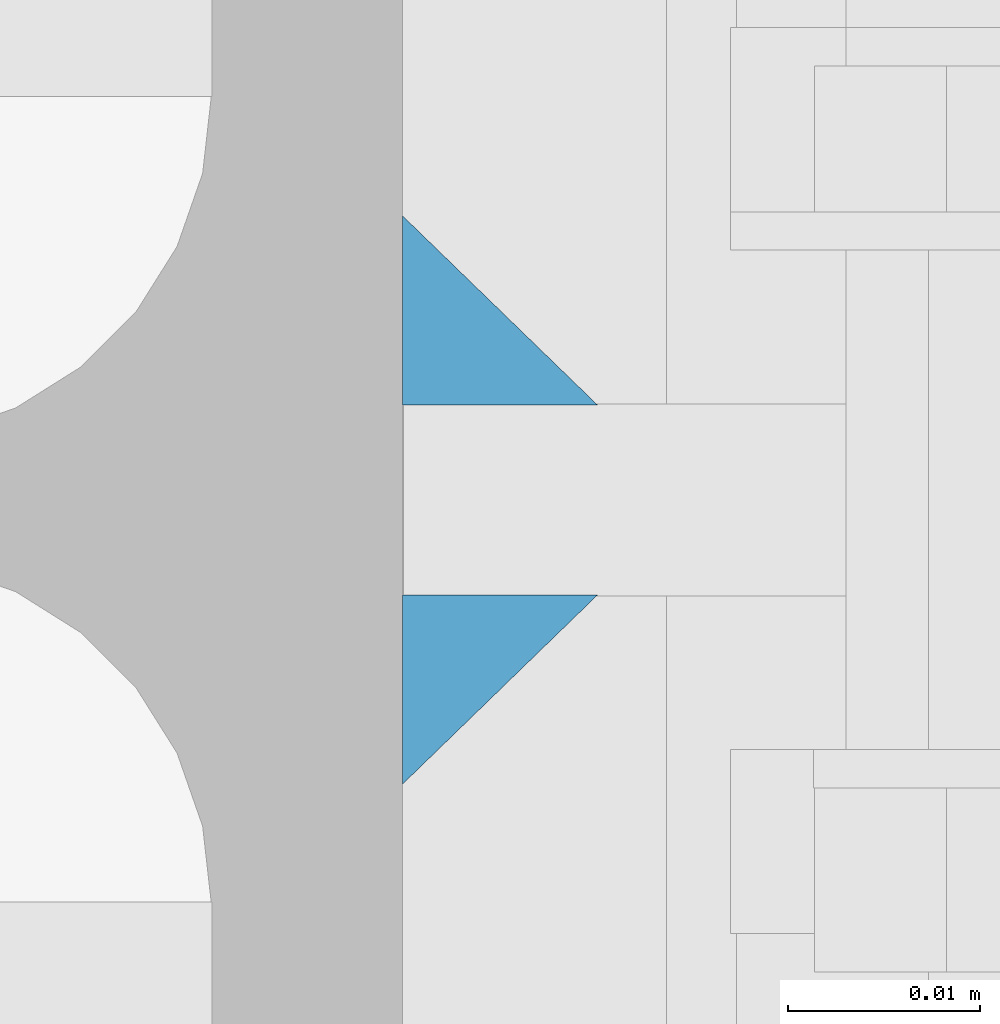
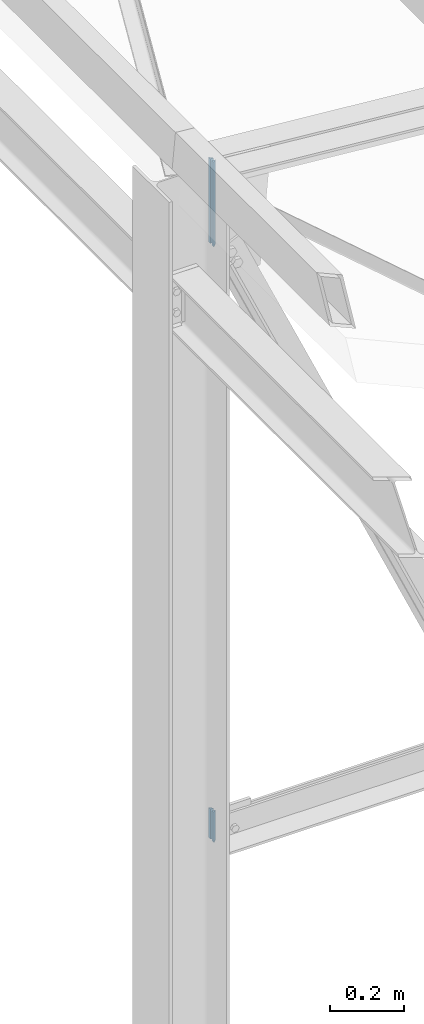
# One storey, part 35 of 251: 4 fasteners.
"""IFC4 building model written with IfcOpenShell, lengths in metres."""

from ifc_helpers import new_model, si_unit, frame, origin_with_axes, place, context, project, spatial, polyline, outline, extrude, type_object, element, save


model = new_model("IFC4")

# Units and contexts
model_context = context("Model", 3, precision=1e-05, world=origin_with_axes())
ifc_project = project(units=[si_unit("LENGTHUNIT", "METRE"), si_unit("AREAUNIT", "SQUARE_METRE"), si_unit("VOLUMEUNIT", "CUBIC_METRE"), si_unit("MASSUNIT", "GRAM", prefix="KILO"), si_unit("TIMEUNIT", "SECOND"), si_unit("PLANEANGLEUNIT", "RADIAN"), si_unit("SOLIDANGLEUNIT", "STERADIAN"), si_unit("THERMODYNAMICTEMPERATUREUNIT", "DEGREE_CELSIUS")], contexts=[model_context])

# Site, building, storey
placement_1 = place(None, origin_with_axes())
site = spatial("IfcSite", under=ifc_project, at=placement_1, Name="Italia", CompositionType="ELEMENT")
building = spatial("IfcBuilding", under=site, at=placement_1, Name="Deposito", CompositionType="ELEMENT")
storey = spatial("IfcBuildingStorey", under=building, at=placement_1, Name="Storey 0", CompositionType="ELEMENT", Elevation=0.0)

# Fasteners
fastener_type_1 = type_object("IfcFastenerType", Name="Reticolare 4", PredefinedType="WELD")
placement_2 = place(placement_1, origin_with_axes())
fastener_1_placement = place(placement_2, origin_with_axes())
element("IfcFastener", 1, at=fastener_1_placement, inside=storey, type_object=fastener_type_1, Name="Reticolare 4", context=model_context, shape_type="SweptSolid", body=[
    extrude(outline(polyline([(0.0, 0.0), (0.00986862, 0.0101733), (0.00986862, 0.0), (0.0, 0.0)])), frame((6.14495, 9.98518, 5.07805), z_axis=(0.0, 0.0, -1.0), x_axis=(0.0, 1.0, 0.0)), (0.0, 0.0, 1.0), 0.1001),
])
fastener_type_2 = type_object("IfcFastenerType", Name="Reticolare 4", PredefinedType="WELD")
fastener_2_placement = place(placement_2, origin_with_axes())
element("IfcFastener", 2, at=fastener_2_placement, inside=storey, type_object=fastener_type_2, Name="Reticolare 4", context=model_context, shape_type="SweptSolid", body=[
    extrude(outline(polyline([(0.0, 0.0), (-0.00986862, -0.0101733), (-0.00986862, 0.0), (0.0, 0.0)])), frame((6.14495, 10.0148, 4.97795), z_axis=(0.0, 0.0, 1.0), x_axis=(0.0, 1.0, 0.0)), (0.0, 0.0, 1.0), 0.1001),
])
fastener_type_3 = type_object("IfcFastenerType", Name="Reticolare 4", PredefinedType="WELD")
fastener_3_placement = place(placement_2, origin_with_axes())
element("IfcFastener", 3, at=fastener_3_placement, inside=storey, type_object=fastener_type_3, Name="Reticolare 4", context=model_context, shape_type="SweptSolid", body=[
    extrude(outline(polyline([(0.0, 0.0), (0.00986862, 0.0101733), (0.00986862, 0.0), (0.0, 0.0)])), frame((6.14495, 9.98518, 7.23455), z_axis=(0.0, 0.0, -1.0), x_axis=(0.0, 1.0, 0.0)), (0.0, 0.0, 1.0), 0.2803),
])
fastener_type_4 = type_object("IfcFastenerType", Name="Reticolare 4", PredefinedType="WELD")
fastener_4_placement = place(placement_2, origin_with_axes())
element("IfcFastener", 4, at=fastener_4_placement, inside=storey, type_object=fastener_type_4, Name="Reticolare 4", context=model_context, shape_type="SweptSolid", body=[
    extrude(outline(polyline([(0.0, 0.0), (-0.00986862, -0.0101733), (-0.00986862, 0.0), (0.0, 0.0)])), frame((6.14495, 10.0148, 6.95425), z_axis=(0.0, 0.0, 1.0), x_axis=(0.0, 1.0, 0.0)), (0.0, 0.0, 1.0), 0.2803),
])

save(model, "model.ifc")
